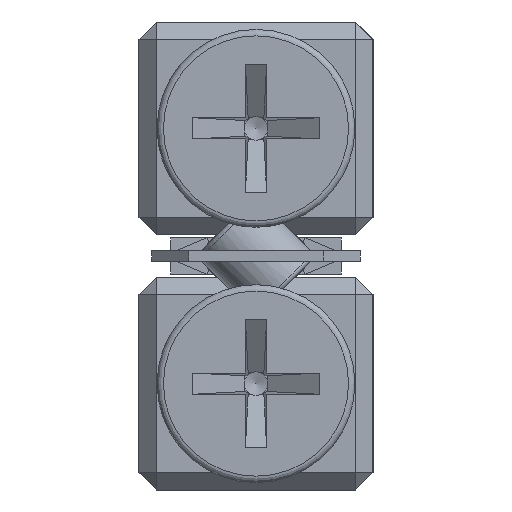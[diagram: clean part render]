
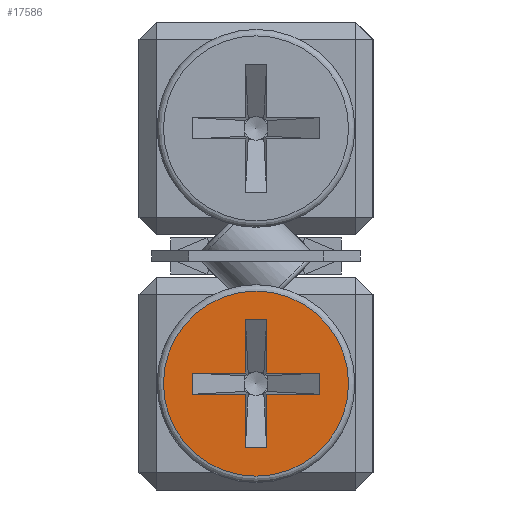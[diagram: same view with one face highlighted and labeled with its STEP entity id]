
A CAD part, left-side view. The second image highlights one B-rep face of the part: STEP entity #17586.
In plain terms, the highlighted planar face has unit normal (-1, 0, 0).
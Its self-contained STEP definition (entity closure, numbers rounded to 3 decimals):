
#20 = ORIENTED_EDGE ( 'NONE', *, *, #12305, .T. ) ;
#124 = ORIENTED_EDGE ( 'NONE', *, *, #16695, .T. ) ;
#162 = CARTESIAN_POINT ( 'NONE',  ( -142., 3., 5.5 ) ) ;
#174 = CARTESIAN_POINT ( 'NONE',  ( -142., -0.5, 8. ) ) ;
#316 = VERTEX_POINT ( 'NONE', #10121 ) ;
#528 = ORIENTED_EDGE ( 'NONE', *, *, #16970, .F. ) ;
#647 = CARTESIAN_POINT ( 'NONE',  ( -142., 0.5, 2. ) ) ;
#717 = DIRECTION ( 'NONE',  ( 0., 0., -1. ) ) ;
#755 = CARTESIAN_POINT ( 'NONE',  ( -142., -3., 5.5 ) ) ;
#781 = CARTESIAN_POINT ( 'NONE',  ( -142., 0., 5. ) ) ;
#850 = DIRECTION ( 'NONE',  ( 1., 0., 0. ) ) ;
#1467 = EDGE_CURVE ( 'NONE', #14564, #13322, #8602, .T. ) ;
#1580 = ORIENTED_EDGE ( 'NONE', *, *, #7806, .T. ) ;
#1581 = CARTESIAN_POINT ( 'NONE',  ( -142., 0.5, 4.5 ) ) ;
#1595 = LINE ( 'NONE', #162, #7360 ) ;
#1665 = DIRECTION ( 'NONE',  ( 0., 0., -1. ) ) ;
#2262 = EDGE_CURVE ( 'NONE', #6399, #7052, #1595, .T. ) ;
#2299 = VECTOR ( 'NONE', #3959, 1000. ) ;
#2336 = VECTOR ( 'NONE', #10487, 1000. ) ;
#2359 = VECTOR ( 'NONE', #3571, 1000. ) ;
#2593 = EDGE_CURVE ( 'NONE', #6399, #11806, #5772, .T. ) ;
#2887 = CARTESIAN_POINT ( 'NONE',  ( -142., -0.5, 8. ) ) ;
#2939 = EDGE_LOOP ( 'NONE', ( #5405 ) ) ;
#3019 = CARTESIAN_POINT ( 'NONE',  ( -142., 3., 4.5 ) ) ;
#3037 = DIRECTION ( 'NONE',  ( 0., 1., 0. ) ) ;
#3170 = CARTESIAN_POINT ( 'NONE',  ( -142., 0.5, 2. ) ) ;
#3495 = ORIENTED_EDGE ( 'NONE', *, *, #2262, .T. ) ;
#3571 = DIRECTION ( 'NONE',  ( 0., 0., 1. ) ) ;
#3734 = VERTEX_POINT ( 'NONE', #16766 ) ;
#3921 = VERTEX_POINT ( 'NONE', #12390 ) ;
#3929 = VECTOR ( 'NONE', #4363, 1000. ) ;
#3959 = DIRECTION ( 'NONE',  ( 0., 1., 0. ) ) ;
#4157 = LINE ( 'NONE', #6939, #4325 ) ;
#4226 = LINE ( 'NONE', #2887, #14492 ) ;
#4325 = VECTOR ( 'NONE', #5688, 1000. ) ;
#4363 = DIRECTION ( 'NONE',  ( 0., 0., 1. ) ) ;
#4763 = DIRECTION ( 'NONE',  ( 0., 0., -1. ) ) ;
#4807 = AXIS2_PLACEMENT_3D ( 'NONE', #10565, #850, #4763 ) ;
#5116 = FACE_OUTER_BOUND ( 'NONE', #2939, .T. ) ;
#5287 = EDGE_CURVE ( 'NONE', #14022, #10924, #10575, .T. ) ;
#5405 = ORIENTED_EDGE ( 'NONE', *, *, #13092, .T. ) ;
#5688 = DIRECTION ( 'NONE',  ( 0., -1., 0. ) ) ;
#5772 = LINE ( 'NONE', #7209, #16615 ) ;
#5906 = VECTOR ( 'NONE', #15849, 1000. ) ;
#6030 = DIRECTION ( 'NONE',  ( 0., -1., 0. ) ) ;
#6087 = DIRECTION ( 'NONE',  ( 0., 0., 1. ) ) ;
#6225 = DIRECTION ( 'NONE',  ( -1., 0., 0. ) ) ;
#6301 = LINE ( 'NONE', #7812, #5906 ) ;
#6399 = VERTEX_POINT ( 'NONE', #16886 ) ;
#6474 = ORIENTED_EDGE ( 'NONE', *, *, #14888, .T. ) ;
#6939 = CARTESIAN_POINT ( 'NONE',  ( -142., 3., 5.5 ) ) ;
#6977 = CARTESIAN_POINT ( 'NONE',  ( -142., -3., 4.5 ) ) ;
#7052 = VERTEX_POINT ( 'NONE', #12533 ) ;
#7209 = CARTESIAN_POINT ( 'NONE',  ( -142., 3., 5.5 ) ) ;
#7360 = VECTOR ( 'NONE', #9894, 1000. ) ;
#7433 = EDGE_CURVE ( 'NONE', #3734, #13375, #9741, .T. ) ;
#7556 = CARTESIAN_POINT ( 'NONE',  ( -142., 0.5, 2. ) ) ;
#7806 = EDGE_CURVE ( 'NONE', #14022, #3921, #6301, .T. ) ;
#7812 = CARTESIAN_POINT ( 'NONE',  ( -142., -0.5, 8. ) ) ;
#8004 = ORIENTED_EDGE ( 'NONE', *, *, #2593, .F. ) ;
#8079 = CARTESIAN_POINT ( 'NONE',  ( -142., -0.5, 8. ) ) ;
#8106 = LINE ( 'NONE', #16239, #3929 ) ;
#8602 = LINE ( 'NONE', #647, #9683 ) ;
#9032 = VECTOR ( 'NONE', #6030, 1000. ) ;
#9161 = ORIENTED_EDGE ( 'NONE', *, *, #1467, .T. ) ;
#9408 = ORIENTED_EDGE ( 'NONE', *, *, #14293, .T. ) ;
#9532 = ORIENTED_EDGE ( 'NONE', *, *, #10324, .F. ) ;
#9683 = VECTOR ( 'NONE', #6087, 1000. ) ;
#9741 = LINE ( 'NONE', #6977, #16194 ) ;
#9894 = DIRECTION ( 'NONE',  ( 0., -1., 0. ) ) ;
#10121 = CARTESIAN_POINT ( 'NONE',  ( -142., 0., 0.65 ) ) ;
#10219 = VERTEX_POINT ( 'NONE', #755 ) ;
#10268 = AXIS2_PLACEMENT_3D ( 'NONE', #781, #6225, #11672 ) ;
#10324 = EDGE_CURVE ( 'NONE', #14564, #16200, #15410, .T. ) ;
#10487 = DIRECTION ( 'NONE',  ( 0., 1., 0. ) ) ;
#10565 = CARTESIAN_POINT ( 'NONE',  ( -142., 4.65, 5. ) ) ;
#10575 = LINE ( 'NONE', #8079, #2299 ) ;
#10924 = VERTEX_POINT ( 'NONE', #11079 ) ;
#11079 = CARTESIAN_POINT ( 'NONE',  ( -142., 0.5, 8. ) ) ;
#11672 = DIRECTION ( 'NONE',  ( 0., 0., -1. ) ) ;
#11806 = VERTEX_POINT ( 'NONE', #3019 ) ;
#11833 = LINE ( 'NONE', #15773, #2336 ) ;
#12062 = CARTESIAN_POINT ( 'NONE',  ( -142., 0.5, 2. ) ) ;
#12305 = EDGE_CURVE ( 'NONE', #7052, #10924, #15823, .T. ) ;
#12390 = CARTESIAN_POINT ( 'NONE',  ( -142., -0.5, 5.5 ) ) ;
#12533 = CARTESIAN_POINT ( 'NONE',  ( -142., 0.5, 5.5 ) ) ;
#13092 = EDGE_CURVE ( 'NONE', #316, #316, #16569, .T. ) ;
#13312 = ORIENTED_EDGE ( 'NONE', *, *, #5287, .F. ) ;
#13316 = FACE_BOUND ( 'NONE', #17067, .T. ) ;
#13322 = VERTEX_POINT ( 'NONE', #1581 ) ;
#13375 = VERTEX_POINT ( 'NONE', #15676 ) ;
#14022 = VERTEX_POINT ( 'NONE', #174 ) ;
#14293 = EDGE_CURVE ( 'NONE', #3921, #10219, #4157, .T. ) ;
#14492 = VECTOR ( 'NONE', #717, 1000. ) ;
#14564 = VERTEX_POINT ( 'NONE', #7556 ) ;
#14862 = CARTESIAN_POINT ( 'NONE',  ( -142., -0.5, 2. ) ) ;
#14888 = EDGE_CURVE ( 'NONE', #13322, #11806, #11833, .T. ) ;
#15410 = LINE ( 'NONE', #3170, #9032 ) ;
#15673 = PLANE ( 'NONE',  #4807 ) ;
#15676 = CARTESIAN_POINT ( 'NONE',  ( -142., -0.5, 4.5 ) ) ;
#15773 = CARTESIAN_POINT ( 'NONE',  ( -142., -3., 4.5 ) ) ;
#15823 = LINE ( 'NONE', #12062, #2359 ) ;
#15849 = DIRECTION ( 'NONE',  ( 0., 0., -1. ) ) ;
#16194 = VECTOR ( 'NONE', #3037, 1000. ) ;
#16200 = VERTEX_POINT ( 'NONE', #14862 ) ;
#16239 = CARTESIAN_POINT ( 'NONE',  ( -142., -3., 4.5 ) ) ;
#16451 = ORIENTED_EDGE ( 'NONE', *, *, #7433, .T. ) ;
#16569 = CIRCLE ( 'NONE', #10268, 4.35 ) ;
#16615 = VECTOR ( 'NONE', #1665, 1000. ) ;
#16695 = EDGE_CURVE ( 'NONE', #13375, #16200, #4226, .T. ) ;
#16766 = CARTESIAN_POINT ( 'NONE',  ( -142., -3., 4.5 ) ) ;
#16886 = CARTESIAN_POINT ( 'NONE',  ( -142., 3., 5.5 ) ) ;
#16970 = EDGE_CURVE ( 'NONE', #3734, #10219, #8106, .T. ) ;
#17067 = EDGE_LOOP ( 'NONE', ( #20, #13312, #1580, #9408, #528, #16451, #124, #9532, #9161, #6474, #8004, #3495 ) ) ;
#17586 = ADVANCED_FACE ( 'NONE', ( #5116, #13316 ), #15673, .F. ) ;
